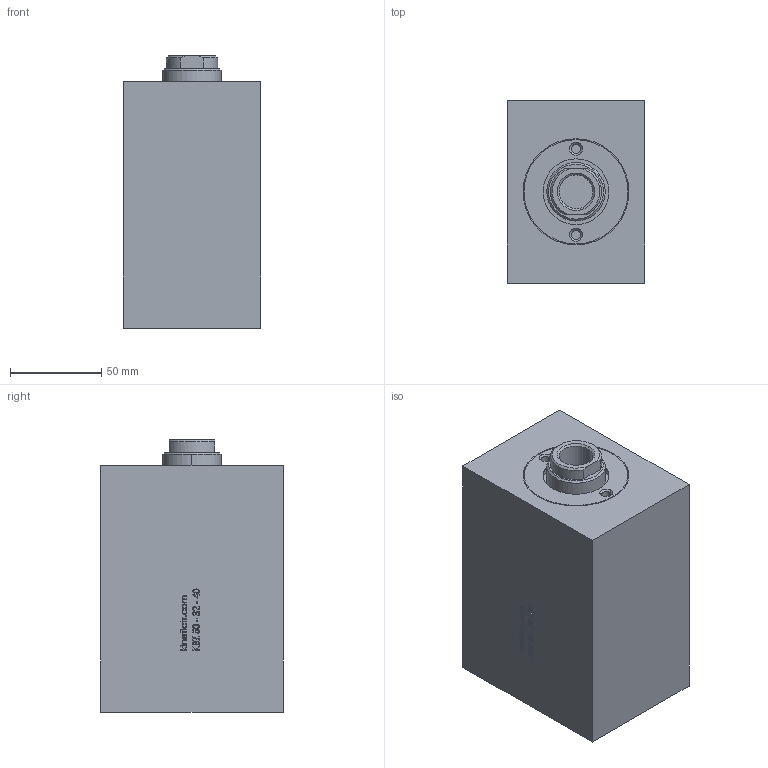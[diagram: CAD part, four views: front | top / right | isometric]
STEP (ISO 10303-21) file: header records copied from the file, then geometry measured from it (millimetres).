
FILE_DESCRIPTION (( 'STEP AP214' ), '1' );
FILE_NAME ('KBZ_02_50_32_70.STEP', '2018-12-29T16:07:06', ( '' ), ( '' ), 'SwSTEP 2.0', 'SolidWorks 2018', '' );
FILE_SCHEMA (( 'AUTOMOTIVE_DESIGN' ));
Length unit declared in the file: millimetre
Products named in the file (5): KBZ_02_50_32_70; KBZ_50-32_ON_KAPAK; 32_M尳; KBZ_50_PÝSTON; 50-32-40-GOVDE
Assembly tree (4 placements, depth 2):
  KBZ_02_50_32_70
    50-32-40-GOVDE
    32_M尳
    KBZ_50_PÝSTON
    KBZ_50-32_ON_KAPAK
Bounding box: 75 x 100 x 149 mm (x, y, z)
Volume: 836166.2 mm3; surface area: 142914.4 mm2
Topology: 4 solids, 4 shells, 477 faces, 1161 edges, 752 vertices
Faces by surface type: plane 215, bspline 124, cylinder 73, cone 65
Entity records: 20929 total; most frequent: CARTESIAN_POINT 10041, ORIENTED_EDGE 2322, DIRECTION 1832, EDGE_CURVE 1161, VERTEX_POINT 752, LINE 698, VECTOR 698, AXIS2_PLACEMENT_3D 567
